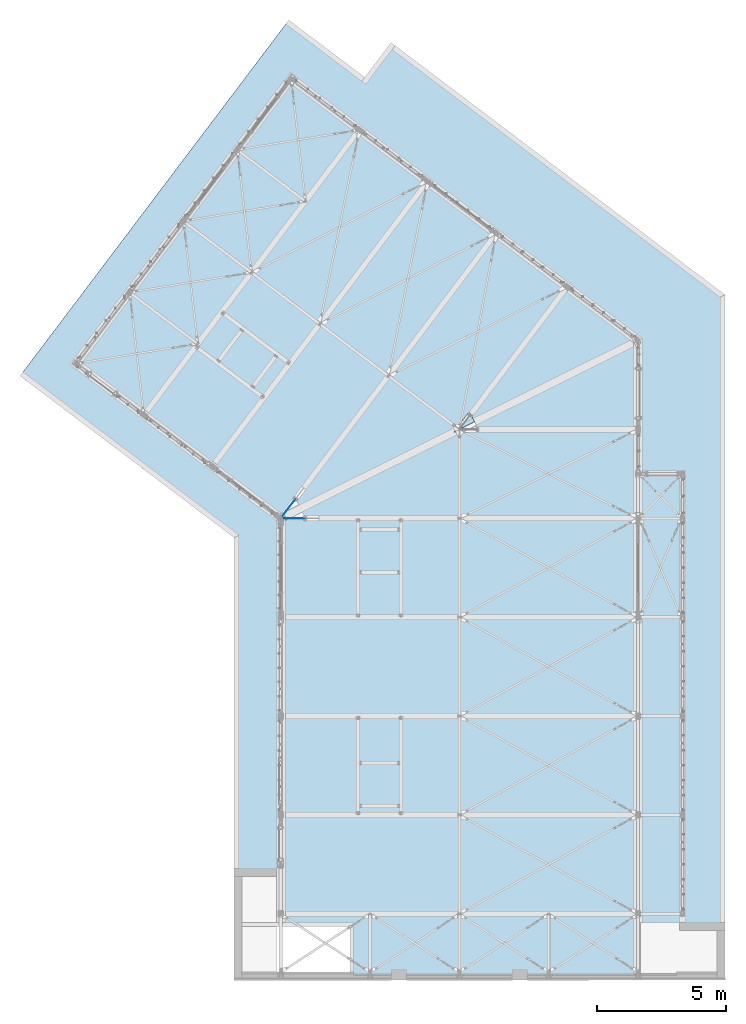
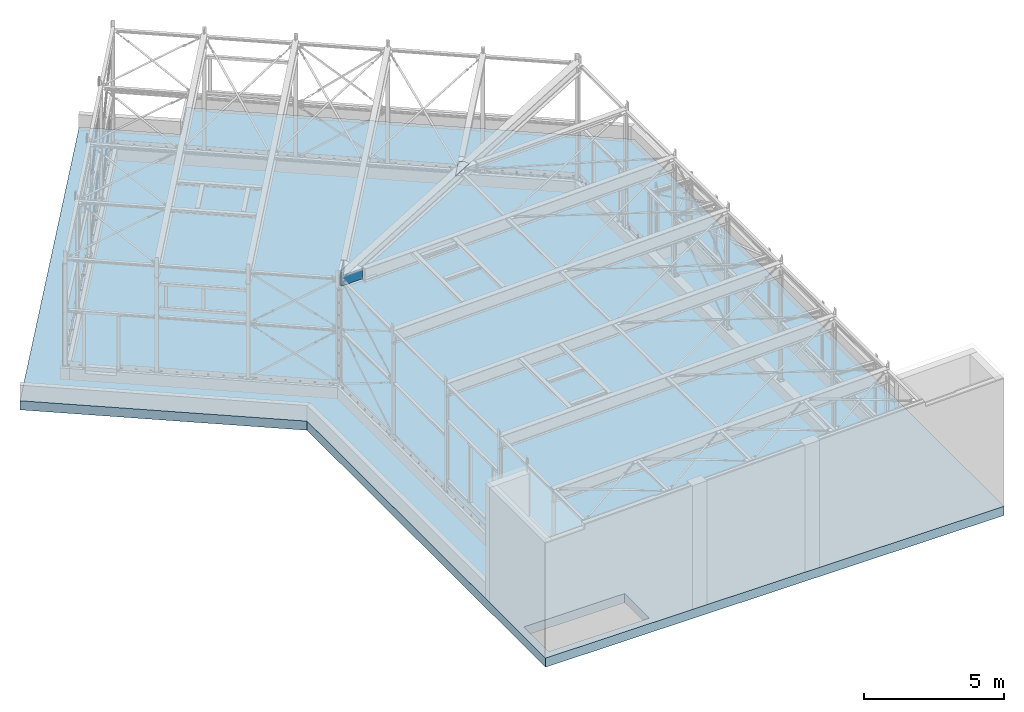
# One storey, part 30 of 476: 3 plates, 1 slab, 13 openings.
"""IFC2X3 building model written with IfcOpenShell, lengths in millimetres."""

import ifcopenshell
import ifcopenshell.guid

model = None  # the IFC model being written
_history = None  # IfcOwnerHistory: only IFC2X3 demands one
_inside = {}  # id of a spatial element -> (the spatial element, [elements in it])
_under = {}  # id of a project, library or spatial element -> (it, [spatial elements below it])
_declared = {}  # id of a project -> (the project, [libraries it declares])
_typed = {}  # id of a type object -> (the type object, [elements of that type])
_made_of = {}  # id of a material, layer set ... -> (it, [elements and type objects made of it])


def new_model(schema):
    """Start an empty IFC model of exactly this schema.

    Asked for "IFC4X3", IfcOpenShell would pick the latest addendum, in which some entities
    have other attributes; the version numbers below select the first issue.
    IFC2X3 requires an IfcOwnerHistory on every rooted entity: one is made here for all.
    """
    global model, _history
    if schema == "IFC4X3":
        model = ifcopenshell.file(schema_version=(4, 3, 0, 0))
    else:
        model = ifcopenshell.file(schema=schema)
    _inside.clear()
    _under.clear()
    _declared.clear()
    _typed.clear()
    _made_of.clear()
    _history = None
    if model.schema == "IFC2X3":
        org = make("IfcOrganization", Name="unknown")
        user = make(
            "IfcPersonAndOrganization",
            ThePerson=make("IfcPerson", FamilyName="unknown"),
            TheOrganization=org,
        )
        app = make(
            "IfcApplication",
            ApplicationDeveloper=org,
            Version="unknown",
            ApplicationFullName="unknown",
            ApplicationIdentifier="unknown",
        )
        _history = make(
            "IfcOwnerHistory",
            OwningUser=user,
            OwningApplication=app,
            ChangeAction="ADDED",
            CreationDate=0,
        )
    return model


def make(cls, **values):
    """One entity of the class cls with the attributes given. An attribute that is None is left unset."""
    return model.create_entity(
        cls, **{name: value for name, value in values.items() if value is not None}
    )


def entity(cls, *values):
    """Any entity or typed value of the class cls, its attributes in the order of the schema. None: left unset."""
    e = model.create_entity(cls)
    for i, value in enumerate(values):
        if value is not None:
            e[i] = value
    return e


def rooted(cls, **values):
    """An entity with a GlobalId (a new one), such as an element, a storey or a relation."""
    return make(cls, GlobalId=ifcopenshell.guid.new(), OwnerHistory=_history, **values)


def si_unit(unit_type, name, prefix=None):
    """IfcSIUnit, for example si_unit("LENGTHUNIT", "METRE", prefix="MILLI")."""
    return make("IfcSIUnit", UnitType=unit_type, Prefix=prefix, Name=name)


def converted_unit(unit_type, name, factor, base, dimensions=None, offset=None):
    """IfcConversionBasedUnit, such as the inch: factor (a typed value) times the base unit."""
    return make(
        "IfcConversionBasedUnit"
        if offset is None
        else "IfcConversionBasedUnitWithOffset",
        ConversionOffset=offset,
        Dimensions=None
        if dimensions is None
        else entity("IfcDimensionalExponents", *dimensions),
        UnitType=unit_type,
        Name=name,
        ConversionFactor=make(
            "IfcMeasureWithUnit", ValueComponent=factor, UnitComponent=base
        ),
    )


def assignment(units):
    """IfcUnitAssignment: the units of a project."""
    return None if units is None else make("IfcUnitAssignment", Units=units)


def point(xyz):
    """IfcCartesianPoint."""
    return None if xyz is None else make("IfcCartesianPoint", Coordinates=xyz)


def direction(xyz):
    """IfcDirection."""
    return None if xyz is None else make("IfcDirection", DirectionRatios=xyz)


def frame(location, z_axis=None, x_axis=None):
    """IfcAxis2Placement3D, a coordinate frame: its origin and axes. An axis left out is left unset."""
    return make(
        "IfcAxis2Placement3D",
        Location=point(location),
        Axis=direction(z_axis),
        RefDirection=direction(x_axis),
    )


def frame_2d(location, x_axis=None):
    """IfcAxis2Placement2D, a coordinate frame in the plane: its origin and x axis."""
    return make(
        "IfcAxis2Placement2D", Location=point(location), RefDirection=direction(x_axis)
    )


def origin():
    """The frame at (0, 0, 0) with its axes left unset."""
    return frame((0.0, 0.0, 0.0))


def origin_with_axes():
    """The frame at (0, 0, 0) with the z axis (0, 0, 1) and the x axis (1, 0, 0) written out."""
    return frame((0.0, 0.0, 0.0), z_axis=(0.0, 0.0, 1.0), x_axis=(1.0, 0.0, 0.0))


def place(relative_to, where):
    """IfcLocalPlacement: puts the frame where relative to a parent placement (None: the world)."""
    return make(
        "IfcLocalPlacement", PlacementRelTo=relative_to, RelativePlacement=where
    )


def context(
    kind, dimensions, precision=None, world=None, true_north=None, identifier=None
):
    """IfcGeometricRepresentationContext, for example the 3D "Model" context."""
    return make(
        "IfcGeometricRepresentationContext",
        ContextIdentifier=identifier,
        ContextType=kind,
        CoordinateSpaceDimension=dimensions,
        Precision=precision,
        WorldCoordinateSystem=world,
        TrueNorth=true_north,
    )


def project(units=None, contexts=None):
    """IfcProject with its units and contexts."""
    return rooted(
        "IfcProject",
        Name="project",
        RepresentationContexts=contexts,
        UnitsInContext=assignment(units),
    )


def spatial(cls, under=None, at=None, **own):
    """A site, building, storey or space (cls), placed at a placement, below another one or the project."""
    s = rooted(cls, ObjectPlacement=at, **own)
    if under is not None:
        _under.setdefault(under.id(), (under, []))[1].append(s)
    return s


def polyline(points):
    """IfcPolyline through the points."""
    return make("IfcPolyline", Points=[point(p) for p in points])


def profile(cls, at=None, kind="AREA", **sizes):
    """A parametric profile (cls). Its sizes go by their IFC names, for example OverallWidth=200.0."""
    return make(cls, ProfileType=kind, Position=at, **sizes)


def circle(**sizes):
    """IfcCircleProfileDef."""
    return profile("IfcCircleProfileDef", **sizes)


def outline(outer, holes=None, kind="AREA"):
    """IfcArbitraryClosedProfileDef: a profile drawn as a closed curve; with holes, ...WithVoids."""
    if holes is None:
        return make("IfcArbitraryClosedProfileDef", ProfileType=kind, OuterCurve=outer)
    return make(
        "IfcArbitraryProfileDefWithVoids",
        ProfileType=kind,
        OuterCurve=outer,
        InnerCurves=holes,
    )


def extrude(swept, where, along, depth):
    """IfcExtrudedAreaSolid: the profile swept, set in the frame where, extruded along a direction by depth."""
    return make(
        "IfcExtrudedAreaSolid",
        SweptArea=swept,
        Position=where,
        ExtrudedDirection=direction(along),
        Depth=depth,
    )


def shape(context_of_items, identifier, shape_type, items):
    """IfcShapeRepresentation: the items that make up one representation, for example the "Body"."""
    return make(
        "IfcShapeRepresentation",
        ContextOfItems=context_of_items,
        RepresentationIdentifier=identifier,
        RepresentationType=shape_type,
        Items=items,
    )


def material(Name=None, Category=None):
    """IfcMaterial."""
    return make("IfcMaterial", Name=Name, Category=Category)


def layer(
    of_material, thickness, ventilated=None, Name=None, Category=None, Priority=None
):
    """IfcMaterialLayer: one layer of a wall or slab, of a material (None: an air gap)."""
    return make(
        "IfcMaterialLayer",
        Material=of_material,
        LayerThickness=thickness,
        IsVentilated=ventilated,
        Name=Name,
        Category=Category,
        Priority=Priority,
    )


def layer_set(layers, Name=None):
    """IfcMaterialLayerSet."""
    return make("IfcMaterialLayerSet", MaterialLayers=layers, LayerSetName=Name)


def made_of(thing, what):
    """Note that an element or type object is made of a material, layer set ...; save() writes the relation."""
    if what is not None:
        _made_of.setdefault(what.id(), (what, []))[1].append(thing)
    return thing


def element(
    cls,
    number,
    at=None,
    inside=None,
    cuts=None,
    type_object=None,
    material=None,
    context=None,
    identifier="Body",
    shape_type=None,
    held_by="IfcProductDefinitionShape",
    body=None,
    shapes=None,
    **own,
):
    """One element of the class cls, such as IfcWall. Its Tag is "e" and its number.

    at: its placement. inside: the storey or other place that contains it. cuts: it is an
    opening in that element (IfcRelVoidsElement). A single representation is given by context,
    identifier, shape_type and body (its items); several are given by shapes. held_by: the class
    of the entity that holds the representations. save() writes the other relations.
    """
    e = rooted(cls, Tag="e%d" % number, ObjectPlacement=at, **own)
    if body is not None:
        shapes = [shape(context, identifier, shape_type, body)]
    if shapes is not None:
        e.Representation = make(held_by, Representations=shapes)
    if inside is not None:
        _inside.setdefault(inside.id(), (inside, []))[1].append(e)
    if cuts is not None:
        rooted(
            "IfcRelVoidsElement", RelatingBuildingElement=cuts, RelatedOpeningElement=e
        )
    if type_object is not None:
        _typed.setdefault(type_object.id(), (type_object, []))[1].append(e)
    return made_of(e, material)


def aggregate(whole, parts):
    """IfcRelAggregates: a whole, such as a stair, and the parts it consists of."""
    return rooted("IfcRelAggregates", RelatingObject=whole, RelatedObjects=parts)


def save(model, path):
    """Write the relations noted so far, then the file.

    IfcRelAggregates (storeys below a building ...), IfcRelContainedInSpatialStructure (elements
    in a storey), IfcRelDefinesByType, IfcRelAssociatesMaterial and IfcRelDeclares: one each for
    every whole, place, type object, material and project.
    """
    for whole, parts in _under.values():
        aggregate(whole, parts)
    for where, things in _inside.values():
        rooted(
            "IfcRelContainedInSpatialStructure",
            RelatedElements=things,
            RelatingStructure=where,
        )
    for kind, things in _typed.values():
        rooted("IfcRelDefinesByType", RelatedObjects=things, RelatingType=kind)
    for what, things in _made_of.values():
        rooted("IfcRelAssociatesMaterial", RelatedObjects=things, RelatingMaterial=what)
    for by, libraries in _declared.values():
        rooted("IfcRelDeclares", RelatingContext=by, RelatedDefinitions=libraries)
    model.write(path)


model = new_model("IFC2X3")

# Units and contexts
model_context = context("Model", 3, precision=1e-09, world=origin_with_axes())
ifc_project = project(units=[si_unit("LENGTHUNIT", "METRE", prefix="MILLI"), si_unit("AREAUNIT", "SQUARE_METRE"), si_unit("VOLUMEUNIT", "CUBIC_METRE"), converted_unit("PLANEANGLEUNIT", "DEGREE", entity("IfcPlaneAngleMeasure", 0.01745329), si_unit("PLANEANGLEUNIT", "RADIAN"), dimensions=[0, 0, 0, 0, 0, 0, 0])], contexts=[model_context])

# Site, building, storey
site_placement = place(None, origin_with_axes())
site = spatial("IfcSite", under=ifc_project, at=site_placement, Name="mKR Teilneubau & Sanierung BA1 - Ostfildern", CompositionType="ELEMENT")
building_placement = place(site_placement, origin_with_axes())
building = spatial("IfcBuilding", under=site, at=building_placement, Name="Struktur 1", CompositionType="ELEMENT")
storey_placement = place(building_placement, origin_with_axes())
storey = spatial("IfcBuildingStorey", under=building, at=storey_placement, Name="Default Storey", CompositionType="ELEMENT", Elevation=0.0)

# Plate, openings
ifc_material_1 = material(Name="S235JR")
ifc_layer_1 = layer(ifc_material_1, 12.0)
ifc_layer_set_1 = layer_set([ifc_layer_1], Name="S235JR")
plate_1_placement = place(None, frame((8640.901771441, -5942.673878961, 5041.920794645), z_axis=(0.0, 1.0, 0.0), x_axis=(-0.999548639, 0.0, -0.030041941)))
plate_1 = element("IfcPlate", 1, at=plate_1_placement, inside=storey, material=ifc_layer_set_1, Name="-", ObjectType="-", context=model_context, shape_type="SweptSolid", body=[
    extrude(outline(polyline([(-435.229837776, -225.5), (455.280675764, -225.5), (442.237100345, 223.5), (-435.229837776, 223.5), (-435.229837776, -225.5)])), origin_with_axes(), (0.0, 0.0, -1.0), 12.0),
])
opening_1_placement = place(plate_1_placement, frame((114.860464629, 218.5, -70.214887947), z_axis=(0.0, -1.0, 0.0), x_axis=(1.0, 0.0, 0.0)))
element("IfcOpeningElement", 2, at=opening_1_placement, cuts=plate_1, ObjectType="Opening", context=model_context, shape_type="SweptSolid", body=[
    extrude(outline(polyline([(0.0, 0.0), (388.972236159, 0.0), (388.972236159, 96.251477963), (0.0, 96.251477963), (0.0, 0.0)])), origin(), (0.0, 0.0, -1.0), 381.5),
])
opening_2_placement = place(plate_1_placement, frame((484.856224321, -600.0, 26.036590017), z_axis=(0.0, -1.0, 0.0), x_axis=(-1.0, 0.0, 0.0)))
element("IfcOpeningElement", 3, at=opening_2_placement, cuts=plate_1, ObjectType="Opening", context=model_context, shape_type="SweptSolid", body=[
    extrude(outline(polyline([(0.0, 0.0), (357.245759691, 0.0), (357.245759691, 60.323104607), (0.0, 60.323104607), (0.0, 0.0)])), origin(), (0.0, 0.0, -1.0), 379.5),
])
opening_3_placement = place(plate_1_placement, frame((442.237100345, 223.5, 0.01), z_axis=(0.0, 0.0, 1.0), x_axis=(-1.0, 0.0, 0.0)))
element("IfcOpeningElement", 4, at=opening_3_placement, cuts=plate_1, ObjectType="Opening", context=model_context, shape_type="SweptSolid", body=[
    extrude(outline(polyline([(0.0, 0.0), (70.0, 0.0), (-1.016331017, 34.985240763), (0.0, 0.0)])), origin(), (0.0, 0.0, -1.0), 12.02),
])
opening_4_placement = place(plate_1_placement, frame((455.280675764, -225.5, 0.01), z_axis=(0.0, 0.0, 1.0), x_axis=(-0.029038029, 0.999578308, 0.0)))
element("IfcOpeningElement", 5, at=opening_4_placement, cuts=plate_1, ObjectType="Opening", context=model_context, shape_type="SweptSolid", body=[
    extrude(outline(polyline([(0.0, 0.0), (35.0, 0.0), (2.032662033, 69.970481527), (0.0, 0.0)])), origin(), (0.0, 0.0, -1.0), 12.02),
])
opening_5_placement = place(plate_1_placement, frame((2.509527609, -1.558824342, 0.5), z_axis=(0.0, 0.0, -1.0), x_axis=(-1.0, 0.0, 0.0)))
element("IfcOpeningElement", 6, at=opening_5_placement, cuts=plate_1, ObjectType="Opening", context=model_context, shape_type="SweptSolid", body=[
    extrude(circle(Radius=7.001, at=frame_2d((424.739365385, 210.0), x_axis=(1.0, 0.0))), origin(), (0.0, 0.0, 1.0), 13.0),
])
opening_6_placement = place(plate_1_placement, frame((2.509527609, -1.558824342, 0.5), z_axis=(0.0, 0.0, -1.0), x_axis=(-1.0, 0.0, 0.0)))
element("IfcOpeningElement", 7, at=opening_6_placement, cuts=plate_1, ObjectType="Opening", context=model_context, shape_type="SweptSolid", body=[
    extrude(circle(Radius=7.001, at=frame_2d((424.739365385, -210.0), x_axis=(1.0, 0.0))), origin(), (0.0, 0.0, 1.0), 13.0),
])

# Plate
plate_2_placement = place(None, frame((15563.62935428, -2036.608349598, 5303.997592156), z_axis=(0.018107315, 0.023971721, -0.999548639), x_axis=(0.445964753, -0.894950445, -0.013384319)))
element("IfcPlate", 8, at=plate_2_placement, inside=storey, material=ifc_layer_set_1, Name="-", ObjectType="-", context=model_context, shape_type="SweptSolid", body=[
    extrude(outline(polyline([(0.0, 0.0), (198.900434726, 0.0), (198.900439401, 893.492734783), (-196.959269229, 98.015540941), (0.0, 0.0)])), origin_with_axes(), (0.0, 0.0, 1.0), 12.0),
])

# Plate, openings
plate_3_placement = place(None, frame((8456.871926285, -5573.034160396, 5041.920794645), z_axis=(-0.797941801, 0.602734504, 0.0), x_axis=(-0.602462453, -0.797581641, -0.030041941)))
plate_3 = element("IfcPlate", 9, at=plate_3_placement, inside=storey, material=ifc_layer_set_1, Name="-", ObjectType="-", context=model_context, shape_type="SweptSolid", body=[
    extrude(outline(polyline([(-435.229837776, -225.5), (455.280675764, -225.5), (442.237100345, 223.5), (-435.229837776, 223.5), (-435.229837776, -225.5)])), origin_with_axes(), (0.0, 0.0, 1.0), 12.0),
])
opening_7_placement = place(plate_3_placement, frame((0.0, 218.5, 6.0), z_axis=(0.0, 1.0, 0.0), x_axis=(1.0, 0.0, 0.0)))
element("IfcOpeningElement", 10, at=opening_7_placement, cuts=plate_3, ObjectType="Opening", context=model_context, shape_type="SweptSolid", body=[
    extrude(outline(polyline([(114.860464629, -64.214887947), (503.832700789, -64.214887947), (503.832700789, 32.036590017), (114.860464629, 32.036590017), (114.860464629, -64.214887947)])), origin(), (0.0, 0.0, 1.0), 381.5),
])
opening_8_placement = place(plate_3_placement, frame((0.0, -600.0, 6.0), z_axis=(0.0, 1.0, 0.0), x_axis=(-1.0, 0.0, 0.0)))
element("IfcOpeningElement", 11, at=opening_8_placement, cuts=plate_3, ObjectType="Opening", context=model_context, shape_type="SweptSolid", body=[
    extrude(outline(polyline([(-484.856224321, -32.036590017), (-127.610464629, -32.036590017), (-127.610464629, 28.28651459), (-484.856224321, 28.28651459), (-484.856224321, -32.036590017)])), origin(), (0.0, 0.0, 1.0), 379.5),
])
opening_9_placement = place(plate_3_placement, frame((-48.724234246, 0.0, -0.01), z_axis=(0.0, 0.0, 1.0), x_axis=(1.0, 0.0, 0.0)))
element("IfcOpeningElement", 12, at=opening_9_placement, cuts=plate_3, ObjectType="Opening", context=model_context, shape_type="SweptSolid", body=[
    extrude(outline(polyline([(490.961334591, 223.5), (420.961334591, 223.5), (491.977665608, 188.514759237), (490.961334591, 223.5)])), origin(), (0.0, 0.0, 1.0), 12.02),
])
opening_10_placement = place(plate_3_placement, frame((-48.724234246, 0.0, -0.01), z_axis=(0.0, 0.0, 1.0), x_axis=(1.0, 0.0, 0.0)))
element("IfcOpeningElement", 13, at=opening_10_placement, cuts=plate_3, ObjectType="Opening", context=model_context, shape_type="SweptSolid", body=[
    extrude(outline(polyline([(504.00491001, -225.5), (502.988578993, -190.514759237), (434.00491001, -225.5), (504.00491001, -225.5)])), origin(), (0.0, 0.0, 1.0), 12.02),
])
opening_11_placement = place(plate_3_placement, frame((2.509527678, -1.55882437, -0.5), z_axis=(0.0, 0.0, 1.0), x_axis=(1.0, 0.0, 0.0)))
element("IfcOpeningElement", 14, at=opening_11_placement, cuts=plate_3, ObjectType="Opening", context=model_context, shape_type="SweptSolid", body=[
    extrude(circle(Radius=7.001, at=frame_2d((-424.739365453, 210.0), x_axis=(1.0, 0.0))), origin(), (0.0, 0.0, 1.0), 13.0),
])
opening_12_placement = place(plate_3_placement, frame((2.509527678, -1.55882437, -0.5), z_axis=(0.0, 0.0, 1.0), x_axis=(1.0, 0.0, 0.0)))
element("IfcOpeningElement", 15, at=opening_12_placement, cuts=plate_3, ObjectType="Opening", context=model_context, shape_type="SweptSolid", body=[
    extrude(circle(Radius=7.001, at=frame_2d((-424.739365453, -210.0), x_axis=(1.0, 0.0))), origin(), (0.0, 0.0, 1.0), 13.0),
])

# Slab, opening
ifc_material_2 = material(Name="C25/30")
ifc_layer_2 = layer(ifc_material_2, 400.0)
ifc_layer_set_2 = layer_set([ifc_layer_2], Name="C25/30")
slab_placement = place(None, frame((-1908.515911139, -444.485153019, -400.0), z_axis=(0.0, 0.0, 1.0), x_axis=(1.0, 0.0, 0.0)))
slab = element("IfcSlab", 16, at=slab_placement, inside=storey, material=ifc_layer_set_2, Name="-", ObjectType="-", context=model_context, shape_type="SweptSolid", body=[
    extrude(outline(polyline([(8269.124675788, -6246.177261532), (8269.124675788, -23335.831314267), (27234.124614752, -23335.831314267), (27234.124614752, 3133.134365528), (14333.165931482, 12878.0248889), (13317.558178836, 11533.493074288), (10385.121903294, 13748.542940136), (0.0, 0.0), (8269.124675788, -6246.177261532)])), origin_with_axes(), (0.0, 0.0, 1.0), 400.0),
])
opening_13_placement = place(slab_placement, frame((0.0, 0.0, -0.1), z_axis=(0.0, 0.0, 1.0), x_axis=(1.0, 0.0, 0.0)))
element("IfcOpeningElement", 17, at=opening_13_placement, cuts=slab, ObjectType="Opening", context=model_context, shape_type="SweptSolid", body=[
    extrude(outline(polyline([(8569.123675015, -23035.832314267), (12739.125675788, -23035.832314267), (12739.125675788, -21266.18688165), (8569.123675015, -21266.18688165), (8569.123675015, -23035.832314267)])), origin(), (0.0, 0.0, 1.0), 400.2),
])

save(model, "model.ifc")
